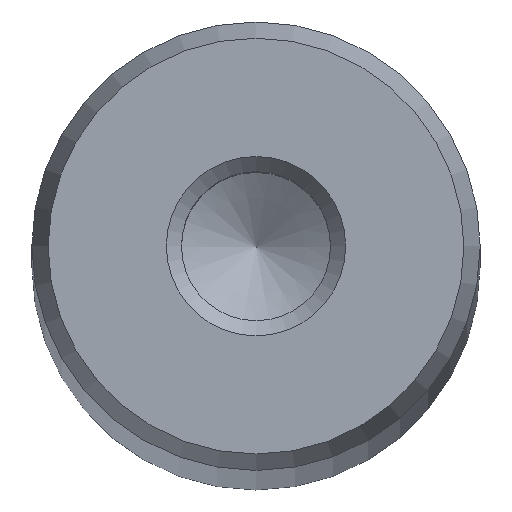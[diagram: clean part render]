
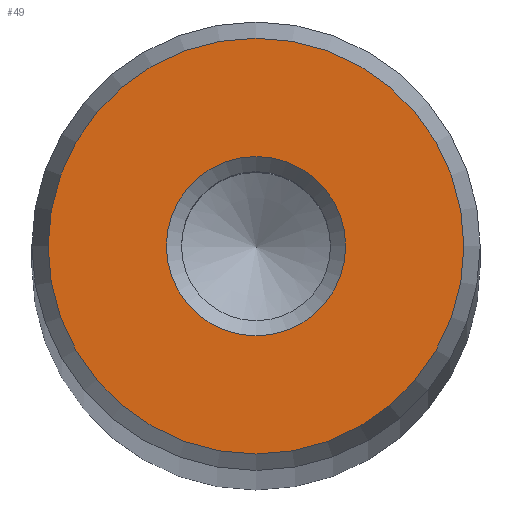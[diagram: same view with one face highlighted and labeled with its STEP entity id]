
A CAD part, top view. The second image highlights one B-rep face of the part: STEP entity #49.
In plain terms, the highlighted planar face has unit normal (0, 0, 1).
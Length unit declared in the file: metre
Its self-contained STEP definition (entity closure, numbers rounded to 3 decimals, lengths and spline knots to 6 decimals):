
#49 = ADVANCED_FACE( '', ( #104, #105 ), #106, .T. );
#104 = FACE_OUTER_BOUND( '', #163, .T. );
#105 = FACE_BOUND( '', #164, .T. );
#106 = PLANE( '', #165 );
#163 = EDGE_LOOP( '', ( #228 ) );
#164 = EDGE_LOOP( '', ( #229 ) );
#165 = AXIS2_PLACEMENT_3D( '', #230, #231, #232 );
#228 = ORIENTED_EDGE( '', *, *, #276, .T. );
#229 = ORIENTED_EDGE( '', *, *, #286, .T. );
#230 = CARTESIAN_POINT( '', ( 0., 0., 0.502 ) );
#231 = DIRECTION( '', ( 0., 0., 1. ) );
#232 = DIRECTION( '', ( 1., 0., 0. ) );
#276 = EDGE_CURVE( '', #307, #307, #308, .T. );
#286 = EDGE_CURVE( '', #323, #323, #324, .T. );
#307 = VERTEX_POINT( '', #344 );
#308 = CIRCLE( '', #345, 0.009272 );
#323 = VERTEX_POINT( '', #360 );
#324 = CIRCLE( '', #361, 0.004 );
#344 = CARTESIAN_POINT( '', ( 0.009272, 0., 0.502 ) );
#345 = AXIS2_PLACEMENT_3D( '', #382, #383, #384 );
#360 = CARTESIAN_POINT( '', ( 0.004, 0., 0.502 ) );
#361 = AXIS2_PLACEMENT_3D( '', #400, #401, #402 );
#382 = CARTESIAN_POINT( '', ( 0., 0., 0.502 ) );
#383 = DIRECTION( '', ( 0., 0., 1. ) );
#384 = DIRECTION( '', ( 1., 0., 0. ) );
#400 = CARTESIAN_POINT( '', ( 0., 0., 0.502 ) );
#401 = DIRECTION( '', ( 0., 0., -1. ) );
#402 = DIRECTION( '', ( 1., 0., 0. ) );
